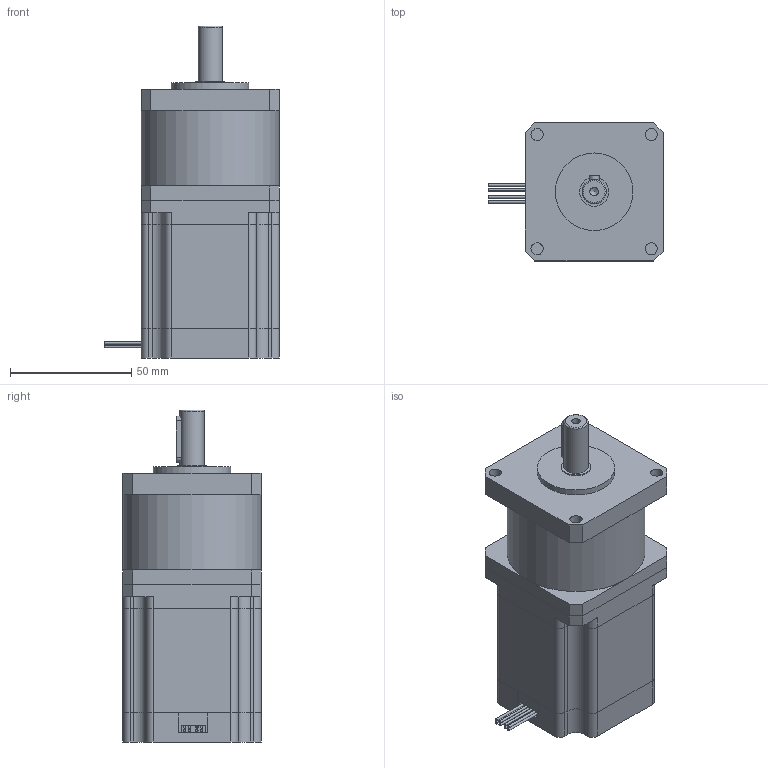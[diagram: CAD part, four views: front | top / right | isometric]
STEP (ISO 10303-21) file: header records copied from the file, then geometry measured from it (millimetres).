
FILE_DESCRIPTION(/* description */ (''),/* implementation_level */ '2;1');
FILE_NAME(/* name */ 'T57PG003-D44-0865.stp',/* time_stamp */ '2018-08-29T15:46:50+08:00',/* author */ (''),/* organization */ (''),/* preprocessor_version */ 'ST-DEVELOPER v11',/* originating_system */ 'SIEMENS UGS NX 6.0',/* authorisation */ '');
FILE_SCHEMA (('CONFIG_CONTROL_DESIGN'));
Length unit declared in the file: millimetre
Products named in the file (1): T57PG003-D44-0865
Bounding box: 72 x 57 x 137 mm (x, y, z)
Volume: 320474.4 mm3; surface area: 50543.7 mm2
Topology: 5 solids, 5 shells, 156 faces, 403 edges, 268 vertices
Faces by surface type: plane 99, cylinder 55, cone 1, torus 1
Full cylindrical faces by diameter (mm): 1 x8, 3.5 x1, 5 x4, 10 x1, 12 x1, 32 x1, 57 x1
Entity records: 4672 total; most frequent: DIRECTION 804, CARTESIAN_POINT 788, ORIENTED_EDGE 746, EDGE_CURVE 373, AXIS2_PLACEMENT_3D 274, VERTEX_POINT 258, LINE 256, VECTOR 256
